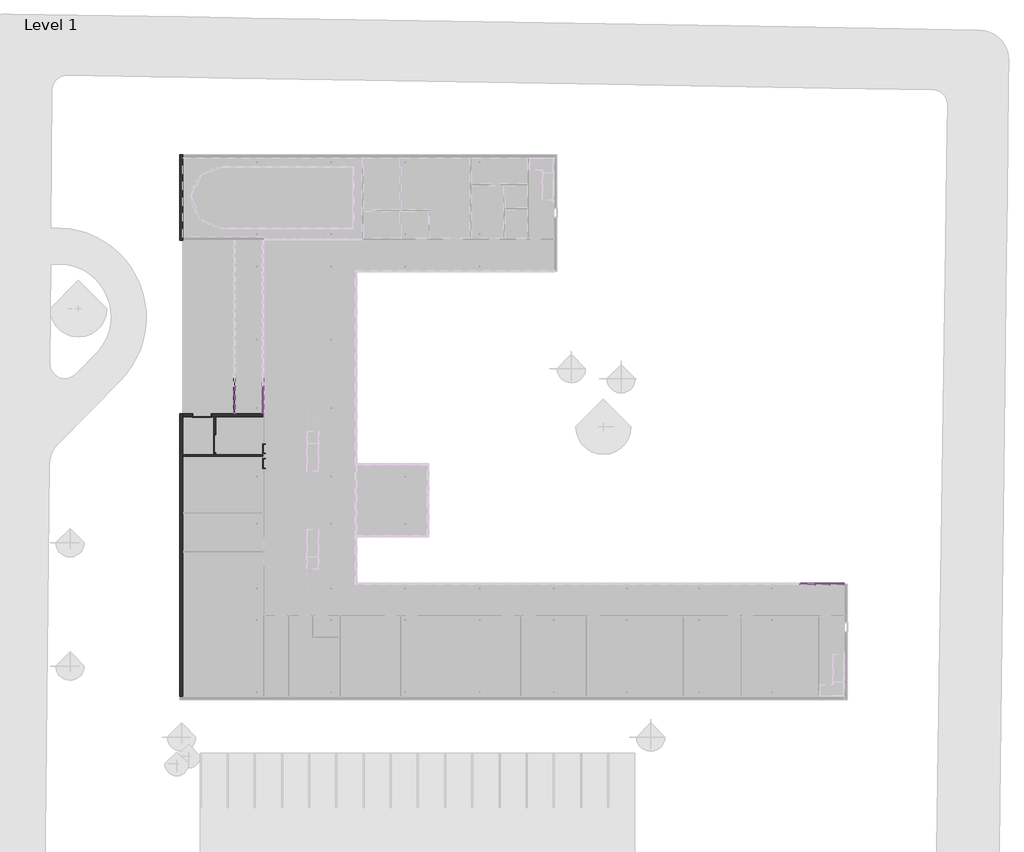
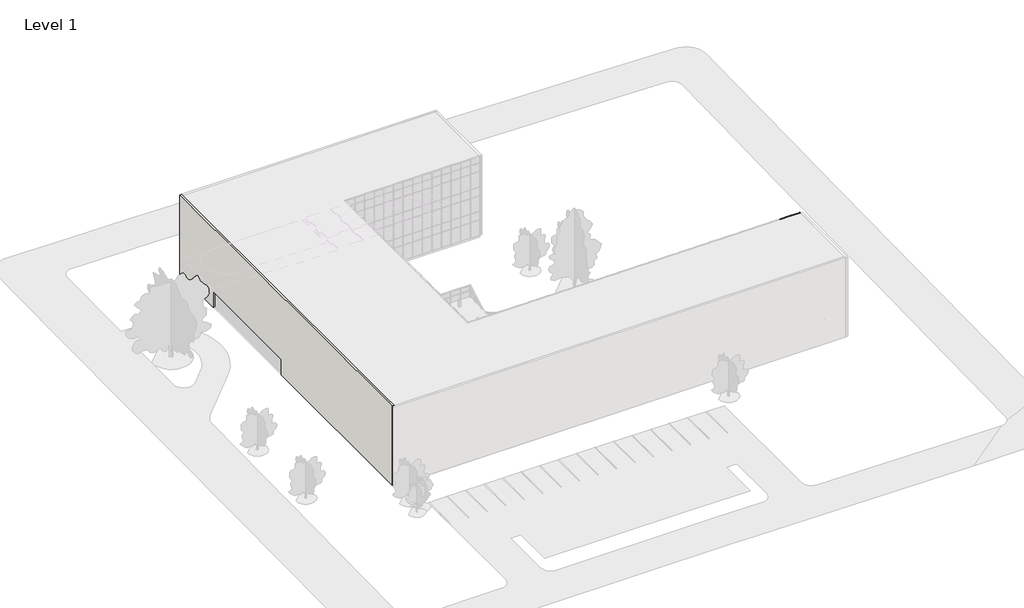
# One storey, part 9 of 27: 81 members, 28 plates, 4 doors, 4 walls.
"""IFC4 building model written with IfcOpenShell, lengths in millimetres."""

from ifc_helpers import new_model, si_unit, frame, origin, place, context, project, spatial, polyline, outline, extrude, faceted_brep, transform, mapped, element, save
from components import door_0915mm_x_2134mm_2aa27b83, door_0915mm_x_2134mm_3fa07aa3, door_2_x_0915mm_x_2134mm_c74f849d, door_2_x_0915mm_x_2134mm_afd50e46, rectangular_mullion_50mm_x_150mm_3fa3ad65, rectangular_mullion_50mm_x_150mm_d427b131, rectangular_mullion_50mm_x_150mm_d8a63713, rectangular_mullion_50mm_x_150mm_a28728bf, rectangular_mullion_50mm_x_150mm_a376ce0f, rectangular_mullion_50mm_x_150mm_4471a7bc, rectangular_mullion_50mm_x_150mm_22af440f, rectangular_mullion_50mm_x_150mm_0f59f38f, rectangular_mullion_50mm_x_150mm_0d1e5fd7, rectangular_mullion_50mm_x_150mm_5f185edf, rectangular_mullion_50mm_x_150mm_478b79f1, rectangular_mullion_50mm_x_150mm_e13fe9f0, rectangular_mullion_50mm_x_150mm_bbc1c4ea, rectangular_mullion_50mm_x_150mm_eeb88b28, rectangular_mullion_50mm_x_150mm_36202a7c, rectangular_mullion_50mm_x_150mm_84717ec5, rectangular_mullion_50mm_x_150mm_d94480a8, rectangular_mullion_50mm_x_150mm_5f630e3e, system_panel_glazed_aa3f7126, system_panel_glazed_37b7c907, system_panel_glazed_7c3f78ea, system_panel_glazed_1f05e993, system_panel_glazed_650e5b75, system_panel_glazed_65478968, system_panel_glazed_98ac4f7d, system_panel_glazed_4c130a31, system_panel_solid_0e2242f5, system_panel_solid_368a6b70, system_panel_solid_52262057, system_panel_solid_ece33ae8

model = new_model("IFC4")

# Units and contexts
model_context = context("Model", 3, world=origin())
ifc_project = project(units=[si_unit("LENGTHUNIT", "METRE", prefix="MILLI")], contexts=[model_context])

# Site, building, storey
site = spatial("IfcSite", under=ifc_project)
building = spatial("IfcBuilding", under=site)
storey = spatial("IfcBuildingStorey", under=building, Name="Level 1", Elevation=0.0)

# Doors
placement = place(None, origin())
door_0915mm_x_2134mm_shape = door_0915mm_x_2134mm_2aa27b83(model_context)
element("IfcDoor", 1, ObjectType="m-doors-hm-f1-a : 0915mm x 2134mm", at=placement, inside=storey, context=model_context, shape_type="MappedRepresentation", body=[
    mapped(door_0915mm_x_2134mm_shape, transform((-1995.8386635, 1518.5392059, 0.0), x_axis=(0.0, 1.0, 0.0), y_axis=(-1.0, 0.0, 0.0), z_axis=(0.0, 0.0, 1.0))),
])
door_0915mm_x_2134mm_2_shape = door_0915mm_x_2134mm_3fa07aa3(model_context)
element("IfcDoor", 2, ObjectType="m-doors-hm-f1-a : 0915mm x 2134mm", at=placement, inside=storey, context=model_context, shape_type="MappedRepresentation", body=[
    mapped(door_0915mm_x_2134mm_2_shape, transform((-1995.8386635, 18.5392059, 0.0), x_axis=(0.0, -1.0, 0.0), y_axis=(1.0, 0.0, 0.0), z_axis=(0.0, 0.0, 1.0))),
])
door_2_x_0915mm_x_2134mm_shape = door_2_x_0915mm_x_2134mm_c74f849d(model_context)
element("IfcDoor", 3, ObjectType="m-doors-hm-f2-a : 2 x 0915mm x 2134mm", at=placement, inside=storey, context=model_context, shape_type="MappedRepresentation", body=[
    mapped(door_2_x_0915mm_x_2134mm_shape, transform((-6944.8386635, 2018.5392059, 0.0), x_axis=(0.0, 1.0, 0.0), y_axis=(-1.0, 0.0, 0.0), z_axis=(0.0, 0.0, 1.0))),
])
door_2_x_0915mm_x_2134mm_2_shape = door_2_x_0915mm_x_2134mm_afd50e46(model_context)
element("IfcDoor", 4, ObjectType="m-doors-hm-f2-a : 2 x 0915mm x 2134mm", at=placement, inside=storey, context=model_context, shape_type="MappedRepresentation", body=[
    mapped(door_2_x_0915mm_x_2134mm_2_shape, transform((-8069.8386635, 4696.5799804, 0.0), x_axis=(-1.0, 0.0, 0.0), y_axis=(0.0, -1.0, 0.0), z_axis=(0.0, 0.0, 1.0))),
])

# Members
rectangular_mullion_50mm_x_150mm_shape = rectangular_mullion_50mm_x_150mm_3fa3ad65(model_context)
element("IfcMember", 5, ObjectType="Rectangular Mullion : 50mm x 150mm", at=placement, inside=storey, context=model_context, shape_type="MappedRepresentation", body=[
    mapped(rectangular_mullion_50mm_x_150mm_shape, transform((-1903.8386635, 5072.5799804, 3550.0), x_axis=(0.0, 0.0, 1.0), y_axis=(-1.0, 0.0, 0.0), z_axis=(0.0, -1.0, 0.0))),
])
element("IfcMember", 6, ObjectType="Rectangular Mullion : 50mm x 150mm", at=placement, inside=storey, context=model_context, shape_type="MappedRepresentation", body=[
    mapped(rectangular_mullion_50mm_x_150mm_shape, transform((-4803.8386635, 5072.5799804, 3550.0), x_axis=(0.0, 0.0, 1.0), y_axis=(-1.0, 0.0, 0.0), z_axis=(0.0, -1.0, 0.0))),
])
rectangular_mullion_50mm_x_150mm_2_shape = rectangular_mullion_50mm_x_150mm_d427b131(model_context)
element("IfcMember", 7, ObjectType="Rectangular Mullion : 50mm x 150mm", at=placement, inside=storey, context=model_context, shape_type="MappedRepresentation", body=[
    mapped(rectangular_mullion_50mm_x_150mm_2_shape, transform((-1903.8386635, 7810.4220859, 3550.0), x_axis=(0.0, 0.0, 1.0), y_axis=(-1.0, 0.0, 0.0), z_axis=(0.0, -1.0, 0.0))),
])
element("IfcMember", 8, ObjectType="Rectangular Mullion : 50mm x 150mm", at=placement, inside=storey, context=model_context, shape_type="MappedRepresentation", body=[
    mapped(rectangular_mullion_50mm_x_150mm_2_shape, transform((-1903.8386635, 6889.4747175, 3550.0), x_axis=(0.0, 0.0, 1.0), y_axis=(-1.0, 0.0, 0.0), z_axis=(0.0, -1.0, 0.0))),
])
element("IfcMember", 9, ObjectType="Rectangular Mullion : 50mm x 150mm", at=placement, inside=storey, context=model_context, shape_type="MappedRepresentation", body=[
    mapped(rectangular_mullion_50mm_x_150mm_2_shape, transform((-1903.8386635, 5968.5273491, 3550.0), x_axis=(0.0, 0.0, 1.0), y_axis=(-1.0, 0.0, 0.0), z_axis=(0.0, -1.0, 0.0))),
])
element("IfcMember", 10, ObjectType="Rectangular Mullion : 50mm x 150mm", at=placement, inside=storey, context=model_context, shape_type="MappedRepresentation", body=[
    mapped(rectangular_mullion_50mm_x_150mm_2_shape, transform((-4803.8386635, 8731.3694542, 3550.0), x_axis=(0.0, 0.0, 1.0), y_axis=(-1.0, 0.0, 0.0), z_axis=(0.0, -1.0, 0.0))),
])
element("IfcMember", 11, ObjectType="Rectangular Mullion : 50mm x 150mm", at=placement, inside=storey, context=model_context, shape_type="MappedRepresentation", body=[
    mapped(rectangular_mullion_50mm_x_150mm_2_shape, transform((-4803.8386635, 7810.4220859, 3550.0), x_axis=(0.0, 0.0, 1.0), y_axis=(-1.0, 0.0, 0.0), z_axis=(0.0, -1.0, 0.0))),
])
element("IfcMember", 12, ObjectType="Rectangular Mullion : 50mm x 150mm", at=placement, inside=storey, context=model_context, shape_type="MappedRepresentation", body=[
    mapped(rectangular_mullion_50mm_x_150mm_2_shape, transform((-4803.8386635, 6889.4747175, 3550.0), x_axis=(0.0, 0.0, 1.0), y_axis=(-1.0, 0.0, 0.0), z_axis=(0.0, -1.0, 0.0))),
])
element("IfcMember", 13, ObjectType="Rectangular Mullion : 50mm x 150mm", at=placement, inside=storey, context=model_context, shape_type="MappedRepresentation", body=[
    mapped(rectangular_mullion_50mm_x_150mm_2_shape, transform((-4803.8386635, 5968.5273491, 3550.0), x_axis=(0.0, 0.0, 1.0), y_axis=(-1.0, 0.0, 0.0), z_axis=(0.0, -1.0, 0.0))),
])
element("IfcMember", 14, ObjectType="Rectangular Mullion : 50mm x 150mm", at=placement, inside=storey, context=model_context, shape_type="MappedRepresentation", body=[
    mapped(rectangular_mullion_50mm_x_150mm_2_shape, transform((-1903.8386635, 7760.4220859, 0.0), x_axis=(0.0, 0.0, -1.0), y_axis=(-1.0, 0.0, 0.0), z_axis=(0.0, 1.0, 0.0))),
])
element("IfcMember", 15, ObjectType="Rectangular Mullion : 50mm x 150mm", at=placement, inside=storey, context=model_context, shape_type="MappedRepresentation", body=[
    mapped(rectangular_mullion_50mm_x_150mm_2_shape, transform((-1903.8386635, 6839.4747175, 0.0), x_axis=(0.0, 0.0, -1.0), y_axis=(-1.0, 0.0, 0.0), z_axis=(0.0, 1.0, 0.0))),
])
element("IfcMember", 16, ObjectType="Rectangular Mullion : 50mm x 150mm", at=placement, inside=storey, context=model_context, shape_type="MappedRepresentation", body=[
    mapped(rectangular_mullion_50mm_x_150mm_2_shape, transform((-4803.8386635, 8681.3694542, 0.0), x_axis=(0.0, 0.0, -1.0), y_axis=(-1.0, 0.0, 0.0), z_axis=(0.0, 1.0, 0.0))),
])
element("IfcMember", 17, ObjectType="Rectangular Mullion : 50mm x 150mm", at=placement, inside=storey, context=model_context, shape_type="MappedRepresentation", body=[
    mapped(rectangular_mullion_50mm_x_150mm_2_shape, transform((-4803.8386635, 7760.4220859, 0.0), x_axis=(0.0, 0.0, -1.0), y_axis=(-1.0, 0.0, 0.0), z_axis=(0.0, 1.0, 0.0))),
])
element("IfcMember", 18, ObjectType="Rectangular Mullion : 50mm x 150mm", at=placement, inside=storey, context=model_context, shape_type="MappedRepresentation", body=[
    mapped(rectangular_mullion_50mm_x_150mm_2_shape, transform((-4803.8386635, 6839.4747175, 0.0), x_axis=(0.0, 0.0, -1.0), y_axis=(-1.0, 0.0, 0.0), z_axis=(0.0, 1.0, 0.0))),
])
element("IfcMember", 19, ObjectType="Rectangular Mullion : 50mm x 150mm", at=placement, inside=storey, context=model_context, shape_type="MappedRepresentation", body=[
    mapped(rectangular_mullion_50mm_x_150mm_shape, transform((-1903.8386635, 5918.5273491, 0.0), x_axis=(0.0, 0.0, -1.0), y_axis=(-1.0, 0.0, 0.0), z_axis=(0.0, 1.0, 0.0))),
])
element("IfcMember", 20, ObjectType="Rectangular Mullion : 50mm x 150mm", at=placement, inside=storey, context=model_context, shape_type="MappedRepresentation", body=[
    mapped(rectangular_mullion_50mm_x_150mm_shape, transform((-4803.8386635, 5918.5273491, 0.0), x_axis=(0.0, 0.0, -1.0), y_axis=(-1.0, 0.0, 0.0), z_axis=(0.0, 1.0, 0.0))),
])
rectangular_mullion_50mm_x_150mm_3_shape = rectangular_mullion_50mm_x_150mm_d8a63713(model_context)
element("IfcMember", 21, ObjectType="Rectangular Mullion : 50mm x 150mm", at=placement, inside=storey, context=model_context, shape_type="MappedRepresentation", body=[
    mapped(rectangular_mullion_50mm_x_150mm_3_shape, transform((-1903.8386635, 7785.4220859, 0.0), x_axis=(0.0, -1.0, 0.0), y_axis=(-1.0, 0.0, 0.0), z_axis=(0.0, 0.0, -1.0))),
])
element("IfcMember", 22, ObjectType="Rectangular Mullion : 50mm x 150mm", at=placement, inside=storey, context=model_context, shape_type="MappedRepresentation", body=[
    mapped(rectangular_mullion_50mm_x_150mm_3_shape, transform((-1903.8386635, 6864.4747175, 0.0), x_axis=(0.0, -1.0, 0.0), y_axis=(-1.0, 0.0, 0.0), z_axis=(0.0, 0.0, -1.0))),
])
element("IfcMember", 23, ObjectType="Rectangular Mullion : 50mm x 150mm", at=placement, inside=storey, context=model_context, shape_type="MappedRepresentation", body=[
    mapped(rectangular_mullion_50mm_x_150mm_3_shape, transform((-1903.8386635, 5943.5273491, 0.0), x_axis=(0.0, -1.0, 0.0), y_axis=(-1.0, 0.0, 0.0), z_axis=(0.0, 0.0, -1.0))),
])
element("IfcMember", 24, ObjectType="Rectangular Mullion : 50mm x 150mm", at=placement, inside=storey, context=model_context, shape_type="MappedRepresentation", body=[
    mapped(rectangular_mullion_50mm_x_150mm_3_shape, transform((-4803.8386635, 7785.4220859, 0.0), x_axis=(0.0, -1.0, 0.0), y_axis=(-1.0, 0.0, 0.0), z_axis=(0.0, 0.0, -1.0))),
])
element("IfcMember", 25, ObjectType="Rectangular Mullion : 50mm x 150mm", at=placement, inside=storey, context=model_context, shape_type="MappedRepresentation", body=[
    mapped(rectangular_mullion_50mm_x_150mm_3_shape, transform((-4803.8386635, 6864.4747175, 0.0), x_axis=(0.0, -1.0, 0.0), y_axis=(-1.0, 0.0, 0.0), z_axis=(0.0, 0.0, -1.0))),
])
element("IfcMember", 26, ObjectType="Rectangular Mullion : 50mm x 150mm", at=placement, inside=storey, context=model_context, shape_type="MappedRepresentation", body=[
    mapped(rectangular_mullion_50mm_x_150mm_3_shape, transform((-4803.8386635, 5943.5273491, 0.0), x_axis=(0.0, -1.0, 0.0), y_axis=(-1.0, 0.0, 0.0), z_axis=(0.0, 0.0, -1.0))),
])
rectangular_mullion_50mm_x_150mm_4_shape = rectangular_mullion_50mm_x_150mm_a28728bf(model_context)
element("IfcMember", 27, ObjectType="Rectangular Mullion : 50mm x 150mm", at=placement, inside=storey, context=model_context, shape_type="MappedRepresentation", body=[
    mapped(rectangular_mullion_50mm_x_150mm_4_shape, transform((-1903.8386635, 7785.4220859, 2135.0), x_axis=(0.0, -1.0, 0.0), y_axis=(-1.0, 0.0, 0.0), z_axis=(0.0, 0.0, -1.0))),
])
element("IfcMember", 28, ObjectType="Rectangular Mullion : 50mm x 150mm", at=placement, inside=storey, context=model_context, shape_type="MappedRepresentation", body=[
    mapped(rectangular_mullion_50mm_x_150mm_4_shape, transform((-1903.8386635, 6864.4747175, 2135.0), x_axis=(0.0, -1.0, 0.0), y_axis=(-1.0, 0.0, 0.0), z_axis=(0.0, 0.0, -1.0))),
])
element("IfcMember", 29, ObjectType="Rectangular Mullion : 50mm x 150mm", at=placement, inside=storey, context=model_context, shape_type="MappedRepresentation", body=[
    mapped(rectangular_mullion_50mm_x_150mm_4_shape, transform((-1903.8386635, 5943.5273491, 2135.0), x_axis=(0.0, -1.0, 0.0), y_axis=(-1.0, 0.0, 0.0), z_axis=(0.0, 0.0, -1.0))),
])
element("IfcMember", 30, ObjectType="Rectangular Mullion : 50mm x 150mm", at=placement, inside=storey, context=model_context, shape_type="MappedRepresentation", body=[
    mapped(rectangular_mullion_50mm_x_150mm_4_shape, transform((-4803.8386635, 7785.4220859, 2135.0), x_axis=(0.0, -1.0, 0.0), y_axis=(-1.0, 0.0, 0.0), z_axis=(0.0, 0.0, -1.0))),
])
element("IfcMember", 31, ObjectType="Rectangular Mullion : 50mm x 150mm", at=placement, inside=storey, context=model_context, shape_type="MappedRepresentation", body=[
    mapped(rectangular_mullion_50mm_x_150mm_4_shape, transform((-4803.8386635, 6864.4747175, 2135.0), x_axis=(0.0, -1.0, 0.0), y_axis=(-1.0, 0.0, 0.0), z_axis=(0.0, 0.0, -1.0))),
])
element("IfcMember", 32, ObjectType="Rectangular Mullion : 50mm x 150mm", at=placement, inside=storey, context=model_context, shape_type="MappedRepresentation", body=[
    mapped(rectangular_mullion_50mm_x_150mm_4_shape, transform((-4803.8386635, 5943.5273491, 2135.0), x_axis=(0.0, -1.0, 0.0), y_axis=(-1.0, 0.0, 0.0), z_axis=(0.0, 0.0, -1.0))),
])
rectangular_mullion_50mm_x_150mm_5_shape = rectangular_mullion_50mm_x_150mm_a376ce0f(model_context)
element("IfcMember", 33, ObjectType="Rectangular Mullion : 50mm x 150mm", at=placement, inside=storey, context=model_context, shape_type="MappedRepresentation", body=[
    mapped(rectangular_mullion_50mm_x_150mm_5_shape, transform((-1903.8386635, 5072.5799804, 2135.0), x_axis=(0.0, 0.0, 1.0), y_axis=(-1.0, 0.0, 0.0), z_axis=(0.0, -1.0, 0.0))),
])
element("IfcMember", 34, ObjectType="Rectangular Mullion : 50mm x 150mm", at=placement, inside=storey, context=model_context, shape_type="MappedRepresentation", body=[
    mapped(rectangular_mullion_50mm_x_150mm_5_shape, transform((-4803.8386635, 5072.5799804, 2135.0), x_axis=(0.0, 0.0, 1.0), y_axis=(-1.0, 0.0, 0.0), z_axis=(0.0, -1.0, 0.0))),
])
rectangular_mullion_50mm_x_150mm_6_shape = rectangular_mullion_50mm_x_150mm_4471a7bc(model_context)
element("IfcMember", 35, ObjectType="Rectangular Mullion : 50mm x 150mm", at=placement, inside=storey, context=model_context, shape_type="MappedRepresentation", body=[
    mapped(rectangular_mullion_50mm_x_150mm_6_shape, transform((-1903.8386635, 7810.4220859, 2135.0), x_axis=(0.0, 0.0, 1.0), y_axis=(-1.0, 0.0, 0.0), z_axis=(0.0, -1.0, 0.0))),
])
element("IfcMember", 36, ObjectType="Rectangular Mullion : 50mm x 150mm", at=placement, inside=storey, context=model_context, shape_type="MappedRepresentation", body=[
    mapped(rectangular_mullion_50mm_x_150mm_6_shape, transform((-1903.8386635, 6889.4747175, 2135.0), x_axis=(0.0, 0.0, 1.0), y_axis=(-1.0, 0.0, 0.0), z_axis=(0.0, -1.0, 0.0))),
])
element("IfcMember", 37, ObjectType="Rectangular Mullion : 50mm x 150mm", at=placement, inside=storey, context=model_context, shape_type="MappedRepresentation", body=[
    mapped(rectangular_mullion_50mm_x_150mm_6_shape, transform((-1903.8386635, 5968.5273491, 2135.0), x_axis=(0.0, 0.0, 1.0), y_axis=(-1.0, 0.0, 0.0), z_axis=(0.0, -1.0, 0.0))),
])
element("IfcMember", 38, ObjectType="Rectangular Mullion : 50mm x 150mm", at=placement, inside=storey, context=model_context, shape_type="MappedRepresentation", body=[
    mapped(rectangular_mullion_50mm_x_150mm_6_shape, transform((-4803.8386635, 7810.4220859, 2135.0), x_axis=(0.0, 0.0, 1.0), y_axis=(-1.0, 0.0, 0.0), z_axis=(0.0, -1.0, 0.0))),
])
element("IfcMember", 39, ObjectType="Rectangular Mullion : 50mm x 150mm", at=placement, inside=storey, context=model_context, shape_type="MappedRepresentation", body=[
    mapped(rectangular_mullion_50mm_x_150mm_6_shape, transform((-4803.8386635, 6889.4747175, 2135.0), x_axis=(0.0, 0.0, 1.0), y_axis=(-1.0, 0.0, 0.0), z_axis=(0.0, -1.0, 0.0))),
])
element("IfcMember", 40, ObjectType="Rectangular Mullion : 50mm x 150mm", at=placement, inside=storey, context=model_context, shape_type="MappedRepresentation", body=[
    mapped(rectangular_mullion_50mm_x_150mm_6_shape, transform((-4803.8386635, 5968.5273491, 2135.0), x_axis=(0.0, 0.0, 1.0), y_axis=(-1.0, 0.0, 0.0), z_axis=(0.0, -1.0, 0.0))),
])
rectangular_mullion_50mm_x_150mm_7_shape = rectangular_mullion_50mm_x_150mm_22af440f(model_context)
element("IfcMember", 41, ObjectType="Rectangular Mullion : 50mm x 150mm", at=placement, inside=storey, context=model_context, shape_type="MappedRepresentation", body=[
    mapped(rectangular_mullion_50mm_x_150mm_7_shape, transform((-1903.8386635, 5022.5799804, 0.0), x_axis=(0.0, -1.0, 0.0), y_axis=(-1.0, 0.0, 0.0), z_axis=(0.0, 0.0, -1.0))),
])
element("IfcMember", 42, ObjectType="Rectangular Mullion : 50mm x 150mm", at=placement, inside=storey, context=model_context, shape_type="MappedRepresentation", body=[
    mapped(rectangular_mullion_50mm_x_150mm_7_shape, transform((-4803.8386635, 5022.5799804, 0.0), x_axis=(0.0, -1.0, 0.0), y_axis=(-1.0, 0.0, 0.0), z_axis=(0.0, 0.0, -1.0))),
])
rectangular_mullion_50mm_x_150mm_8_shape = rectangular_mullion_50mm_x_150mm_0f59f38f(model_context)
element("IfcMember", 43, ObjectType="Rectangular Mullion : 50mm x 150mm", at=placement, inside=storey, context=model_context, shape_type="MappedRepresentation", body=[
    mapped(rectangular_mullion_50mm_x_150mm_8_shape, transform((-1903.8386635, 5022.5799804, 2135.0), x_axis=(0.0, -1.0, 0.0), y_axis=(-1.0, 0.0, 0.0), z_axis=(0.0, 0.0, -1.0))),
])
element("IfcMember", 44, ObjectType="Rectangular Mullion : 50mm x 150mm", at=placement, inside=storey, context=model_context, shape_type="MappedRepresentation", body=[
    mapped(rectangular_mullion_50mm_x_150mm_8_shape, transform((-4803.8386635, 5022.5799804, 2135.0), x_axis=(0.0, -1.0, 0.0), y_axis=(-1.0, 0.0, 0.0), z_axis=(0.0, 0.0, -1.0))),
])
rectangular_mullion_50mm_x_150mm_9_shape = rectangular_mullion_50mm_x_150mm_0d1e5fd7(model_context)
element("IfcMember", 45, ObjectType="Rectangular Mullion : 50mm x 150mm", at=placement, inside=storey, context=model_context, shape_type="MappedRepresentation", body=[
    mapped(rectangular_mullion_50mm_x_150mm_9_shape, transform((55231.6441177, -12132.3615692, 12400.0), x_axis=(0.0, 0.0, 1.0), y_axis=(0.0, 1.0, 0.0), z_axis=(-1.0, 0.0, 0.0))),
])
element("IfcMember", 46, ObjectType="Rectangular Mullion : 50mm x 150mm", at=placement, inside=storey, context=model_context, shape_type="MappedRepresentation", body=[
    mapped(rectangular_mullion_50mm_x_150mm_9_shape, transform((56649.1173382, -12132.3615692, 0.0), x_axis=(0.0, 0.0, -1.0), y_axis=(0.0, 1.0, 0.0), z_axis=(1.0, 0.0, 0.0))),
])
rectangular_mullion_50mm_x_150mm_10_shape = rectangular_mullion_50mm_x_150mm_5f185edf(model_context)
element("IfcMember", 47, ObjectType="Rectangular Mullion : 50mm x 150mm", at=placement, inside=storey, context=model_context, shape_type="MappedRepresentation", body=[
    mapped(rectangular_mullion_50mm_x_150mm_10_shape, transform((53739.1708976, -12132.3615692, 12400.0), x_axis=(0.0, 0.0, 1.0), y_axis=(0.0, 1.0, 0.0), z_axis=(-1.0, 0.0, 0.0))),
])
element("IfcMember", 48, ObjectType="Rectangular Mullion : 50mm x 150mm", at=placement, inside=storey, context=model_context, shape_type="MappedRepresentation", body=[
    mapped(rectangular_mullion_50mm_x_150mm_10_shape, transform((55181.6441177, -12132.3615692, 0.0), x_axis=(0.0, 0.0, -1.0), y_axis=(0.0, 1.0, 0.0), z_axis=(1.0, 0.0, 0.0))),
])
element("IfcMember", 49, ObjectType="Rectangular Mullion : 50mm x 150mm", at=placement, inside=storey, context=model_context, shape_type="MappedRepresentation", body=[
    mapped(rectangular_mullion_50mm_x_150mm_10_shape, transform((53689.1708976, -12132.3615692, 0.0), x_axis=(0.0, 0.0, -1.0), y_axis=(0.0, 1.0, 0.0), z_axis=(1.0, 0.0, 0.0))),
])
rectangular_mullion_50mm_x_150mm_11_shape = rectangular_mullion_50mm_x_150mm_478b79f1(model_context)
element("IfcMember", 50, ObjectType="Rectangular Mullion : 50mm x 150mm", at=placement, inside=storey, context=model_context, shape_type="MappedRepresentation", body=[
    mapped(rectangular_mullion_50mm_x_150mm_11_shape, transform((55231.6441177, -12132.3615692, 3800.0), x_axis=(0.0, 0.0, 1.0), y_axis=(0.0, 1.0, 0.0), z_axis=(-1.0, 0.0, 0.0))),
])
element("IfcMember", 51, ObjectType="Rectangular Mullion : 50mm x 150mm", at=placement, inside=storey, context=model_context, shape_type="MappedRepresentation", body=[
    mapped(rectangular_mullion_50mm_x_150mm_11_shape, transform((55231.6441177, -12132.3615692, 7600.0), x_axis=(0.0, 0.0, 1.0), y_axis=(0.0, 1.0, 0.0), z_axis=(-1.0, 0.0, 0.0))),
])
element("IfcMember", 52, ObjectType="Rectangular Mullion : 50mm x 150mm", at=placement, inside=storey, context=model_context, shape_type="MappedRepresentation", body=[
    mapped(rectangular_mullion_50mm_x_150mm_11_shape, transform((55231.6441177, -12132.3615692, 11400.0), x_axis=(0.0, 0.0, 1.0), y_axis=(0.0, 1.0, 0.0), z_axis=(-1.0, 0.0, 0.0))),
])
element("IfcMember", 53, ObjectType="Rectangular Mullion : 50mm x 150mm", at=placement, inside=storey, context=model_context, shape_type="MappedRepresentation", body=[
    mapped(rectangular_mullion_50mm_x_150mm_11_shape, transform((55231.6441177, -12132.3615692, 2440.0), x_axis=(0.0, 0.0, 1.0), y_axis=(0.0, 1.0, 0.0), z_axis=(-1.0, 0.0, 0.0))),
])
element("IfcMember", 54, ObjectType="Rectangular Mullion : 50mm x 150mm", at=placement, inside=storey, context=model_context, shape_type="MappedRepresentation", body=[
    mapped(rectangular_mullion_50mm_x_150mm_11_shape, transform((55231.6441177, -12132.3615692, 6240.0), x_axis=(0.0, 0.0, 1.0), y_axis=(0.0, 1.0, 0.0), z_axis=(-1.0, 0.0, 0.0))),
])
element("IfcMember", 55, ObjectType="Rectangular Mullion : 50mm x 150mm", at=placement, inside=storey, context=model_context, shape_type="MappedRepresentation", body=[
    mapped(rectangular_mullion_50mm_x_150mm_11_shape, transform((55231.6441177, -12132.3615692, 10040.0), x_axis=(0.0, 0.0, 1.0), y_axis=(0.0, 1.0, 0.0), z_axis=(-1.0, 0.0, 0.0))),
])
rectangular_mullion_50mm_x_150mm_12_shape = rectangular_mullion_50mm_x_150mm_e13fe9f0(model_context)
element("IfcMember", 56, ObjectType="Rectangular Mullion : 50mm x 150mm", at=placement, inside=storey, context=model_context, shape_type="MappedRepresentation", body=[
    mapped(rectangular_mullion_50mm_x_150mm_12_shape, transform((53739.1708976, -12132.3615692, 3800.0), x_axis=(0.0, 0.0, 1.0), y_axis=(0.0, 1.0, 0.0), z_axis=(-1.0, 0.0, 0.0))),
])
element("IfcMember", 57, ObjectType="Rectangular Mullion : 50mm x 150mm", at=placement, inside=storey, context=model_context, shape_type="MappedRepresentation", body=[
    mapped(rectangular_mullion_50mm_x_150mm_12_shape, transform((53739.1708976, -12132.3615692, 7600.0), x_axis=(0.0, 0.0, 1.0), y_axis=(0.0, 1.0, 0.0), z_axis=(-1.0, 0.0, 0.0))),
])
element("IfcMember", 58, ObjectType="Rectangular Mullion : 50mm x 150mm", at=placement, inside=storey, context=model_context, shape_type="MappedRepresentation", body=[
    mapped(rectangular_mullion_50mm_x_150mm_12_shape, transform((53739.1708976, -12132.3615692, 11400.0), x_axis=(0.0, 0.0, 1.0), y_axis=(0.0, 1.0, 0.0), z_axis=(-1.0, 0.0, 0.0))),
])
element("IfcMember", 59, ObjectType="Rectangular Mullion : 50mm x 150mm", at=placement, inside=storey, context=model_context, shape_type="MappedRepresentation", body=[
    mapped(rectangular_mullion_50mm_x_150mm_12_shape, transform((53739.1708976, -12132.3615692, 2440.0), x_axis=(0.0, 0.0, 1.0), y_axis=(0.0, 1.0, 0.0), z_axis=(-1.0, 0.0, 0.0))),
])
element("IfcMember", 60, ObjectType="Rectangular Mullion : 50mm x 150mm", at=placement, inside=storey, context=model_context, shape_type="MappedRepresentation", body=[
    mapped(rectangular_mullion_50mm_x_150mm_12_shape, transform((53739.1708976, -12132.3615692, 6240.0), x_axis=(0.0, 0.0, 1.0), y_axis=(0.0, 1.0, 0.0), z_axis=(-1.0, 0.0, 0.0))),
])
element("IfcMember", 61, ObjectType="Rectangular Mullion : 50mm x 150mm", at=placement, inside=storey, context=model_context, shape_type="MappedRepresentation", body=[
    mapped(rectangular_mullion_50mm_x_150mm_12_shape, transform((53739.1708976, -12132.3615692, 10040.0), x_axis=(0.0, 0.0, 1.0), y_axis=(0.0, 1.0, 0.0), z_axis=(-1.0, 0.0, 0.0))),
])
element("IfcMember", 62, ObjectType="Rectangular Mullion : 50mm x 150mm", at=placement, inside=storey, context=model_context, shape_type="MappedRepresentation", body=[
    mapped(rectangular_mullion_50mm_x_150mm_12_shape, transform((52246.6976774, -12132.3615692, 10040.0), x_axis=(0.0, 0.0, 1.0), y_axis=(0.0, 1.0, 0.0), z_axis=(-1.0, 0.0, 0.0))),
])
rectangular_mullion_50mm_x_150mm_13_shape = rectangular_mullion_50mm_x_150mm_bbc1c4ea(model_context)
element("IfcMember", 63, ObjectType="Rectangular Mullion : 50mm x 150mm", at=placement, inside=storey, context=model_context, shape_type="MappedRepresentation", body=[
    mapped(rectangular_mullion_50mm_x_150mm_13_shape, transform((55206.6441177, -12132.3615692, 11400.0), x_axis=(-1.0, 0.0, 0.0), y_axis=(0.0, 1.0, 0.0), z_axis=(0.0, 0.0, -1.0))),
])
element("IfcMember", 64, ObjectType="Rectangular Mullion : 50mm x 150mm", at=placement, inside=storey, context=model_context, shape_type="MappedRepresentation", body=[
    mapped(rectangular_mullion_50mm_x_150mm_13_shape, transform((53714.1708976, -12132.3615692, 11400.0), x_axis=(-1.0, 0.0, 0.0), y_axis=(0.0, 1.0, 0.0), z_axis=(0.0, 0.0, -1.0))),
])
rectangular_mullion_50mm_x_150mm_14_shape = rectangular_mullion_50mm_x_150mm_eeb88b28(model_context)
element("IfcMember", 65, ObjectType="Rectangular Mullion : 50mm x 150mm", at=placement, inside=storey, context=model_context, shape_type="MappedRepresentation", body=[
    mapped(rectangular_mullion_50mm_x_150mm_14_shape, transform((56699.1173382, -12132.3615692, 12400.0), x_axis=(1.0, 0.0, 0.0), y_axis=(0.0, 1.0, 0.0), z_axis=(0.0, 0.0, 1.0))),
])
rectangular_mullion_50mm_x_150mm_15_shape = rectangular_mullion_50mm_x_150mm_36202a7c(model_context)
element("IfcMember", 66, ObjectType="Rectangular Mullion : 50mm x 150mm", at=placement, inside=storey, context=model_context, shape_type="MappedRepresentation", body=[
    mapped(rectangular_mullion_50mm_x_150mm_15_shape, transform((55206.6441177, -12132.3615692, 0.0), x_axis=(-1.0, 0.0, 0.0), y_axis=(0.0, 1.0, 0.0), z_axis=(0.0, 0.0, -1.0))),
])
element("IfcMember", 67, ObjectType="Rectangular Mullion : 50mm x 150mm", at=placement, inside=storey, context=model_context, shape_type="MappedRepresentation", body=[
    mapped(rectangular_mullion_50mm_x_150mm_15_shape, transform((53714.1708976, -12132.3615692, 0.0), x_axis=(-1.0, 0.0, 0.0), y_axis=(0.0, 1.0, 0.0), z_axis=(0.0, 0.0, -1.0))),
])
rectangular_mullion_50mm_x_150mm_16_shape = rectangular_mullion_50mm_x_150mm_84717ec5(model_context)
element("IfcMember", 68, ObjectType="Rectangular Mullion : 50mm x 150mm", at=placement, inside=storey, context=model_context, shape_type="MappedRepresentation", body=[
    mapped(rectangular_mullion_50mm_x_150mm_16_shape, transform((55206.6441177, -12132.3615692, 2440.0), x_axis=(-1.0, 0.0, 0.0), y_axis=(0.0, 1.0, 0.0), z_axis=(0.0, 0.0, -1.0))),
])
element("IfcMember", 69, ObjectType="Rectangular Mullion : 50mm x 150mm", at=placement, inside=storey, context=model_context, shape_type="MappedRepresentation", body=[
    mapped(rectangular_mullion_50mm_x_150mm_16_shape, transform((53714.1708976, -12132.3615692, 2440.0), x_axis=(-1.0, 0.0, 0.0), y_axis=(0.0, 1.0, 0.0), z_axis=(0.0, 0.0, -1.0))),
])
element("IfcMember", 70, ObjectType="Rectangular Mullion : 50mm x 150mm", at=placement, inside=storey, context=model_context, shape_type="MappedRepresentation", body=[
    mapped(rectangular_mullion_50mm_x_150mm_16_shape, transform((55206.6441177, -12132.3615692, 6240.0), x_axis=(-1.0, 0.0, 0.0), y_axis=(0.0, 1.0, 0.0), z_axis=(0.0, 0.0, -1.0))),
])
element("IfcMember", 71, ObjectType="Rectangular Mullion : 50mm x 150mm", at=placement, inside=storey, context=model_context, shape_type="MappedRepresentation", body=[
    mapped(rectangular_mullion_50mm_x_150mm_16_shape, transform((53714.1708976, -12132.3615692, 6240.0), x_axis=(-1.0, 0.0, 0.0), y_axis=(0.0, 1.0, 0.0), z_axis=(0.0, 0.0, -1.0))),
])
element("IfcMember", 72, ObjectType="Rectangular Mullion : 50mm x 150mm", at=placement, inside=storey, context=model_context, shape_type="MappedRepresentation", body=[
    mapped(rectangular_mullion_50mm_x_150mm_16_shape, transform((52221.6976774, -12132.3615692, 6240.0), x_axis=(-1.0, 0.0, 0.0), y_axis=(0.0, 1.0, 0.0), z_axis=(0.0, 0.0, -1.0))),
])
element("IfcMember", 73, ObjectType="Rectangular Mullion : 50mm x 150mm", at=placement, inside=storey, context=model_context, shape_type="MappedRepresentation", body=[
    mapped(rectangular_mullion_50mm_x_150mm_16_shape, transform((55206.6441177, -12132.3615692, 10040.0), x_axis=(-1.0, 0.0, 0.0), y_axis=(0.0, 1.0, 0.0), z_axis=(0.0, 0.0, -1.0))),
])
element("IfcMember", 74, ObjectType="Rectangular Mullion : 50mm x 150mm", at=placement, inside=storey, context=model_context, shape_type="MappedRepresentation", body=[
    mapped(rectangular_mullion_50mm_x_150mm_16_shape, transform((53714.1708976, -12132.3615692, 10040.0), x_axis=(-1.0, 0.0, 0.0), y_axis=(0.0, 1.0, 0.0), z_axis=(0.0, 0.0, -1.0))),
])
element("IfcMember", 75, ObjectType="Rectangular Mullion : 50mm x 150mm", at=placement, inside=storey, context=model_context, shape_type="MappedRepresentation", body=[
    mapped(rectangular_mullion_50mm_x_150mm_16_shape, transform((52221.6976774, -12132.3615692, 10040.0), x_axis=(-1.0, 0.0, 0.0), y_axis=(0.0, 1.0, 0.0), z_axis=(0.0, 0.0, -1.0))),
])
rectangular_mullion_50mm_x_150mm_17_shape = rectangular_mullion_50mm_x_150mm_d94480a8(model_context)
element("IfcMember", 76, ObjectType="Rectangular Mullion : 50mm x 150mm", at=placement, inside=storey, context=model_context, shape_type="MappedRepresentation", body=[
    mapped(rectangular_mullion_50mm_x_150mm_17_shape, transform((56699.1173382, -12132.3615692, 3800.0), x_axis=(1.0, 0.0, 0.0), y_axis=(0.0, 1.0, 0.0), z_axis=(0.0, 0.0, 1.0))),
])
element("IfcMember", 77, ObjectType="Rectangular Mullion : 50mm x 150mm", at=placement, inside=storey, context=model_context, shape_type="MappedRepresentation", body=[
    mapped(rectangular_mullion_50mm_x_150mm_17_shape, transform((56699.1173382, -12132.3615692, 7600.0), x_axis=(1.0, 0.0, 0.0), y_axis=(0.0, 1.0, 0.0), z_axis=(0.0, 0.0, 1.0))),
])
element("IfcMember", 78, ObjectType="Rectangular Mullion : 50mm x 150mm", at=placement, inside=storey, context=model_context, shape_type="MappedRepresentation", body=[
    mapped(rectangular_mullion_50mm_x_150mm_17_shape, transform((56699.1173382, -12132.3615692, 11400.0), x_axis=(1.0, 0.0, 0.0), y_axis=(0.0, 1.0, 0.0), z_axis=(0.0, 0.0, 1.0))),
])
rectangular_mullion_50mm_x_150mm_18_shape = rectangular_mullion_50mm_x_150mm_5f630e3e(model_context)
element("IfcMember", 79, ObjectType="Rectangular Mullion : 50mm x 150mm", at=placement, inside=storey, context=model_context, shape_type="MappedRepresentation", body=[
    mapped(rectangular_mullion_50mm_x_150mm_18_shape, transform((56699.1173382, -12132.3615692, 2440.0), x_axis=(1.0, 0.0, 0.0), y_axis=(0.0, 1.0, 0.0), z_axis=(0.0, 0.0, 1.0))),
])
element("IfcMember", 80, ObjectType="Rectangular Mullion : 50mm x 150mm", at=placement, inside=storey, context=model_context, shape_type="MappedRepresentation", body=[
    mapped(rectangular_mullion_50mm_x_150mm_15_shape, transform((55206.6441177, -12132.3615692, 3800.0), x_axis=(-1.0, 0.0, 0.0), y_axis=(0.0, 1.0, 0.0), z_axis=(0.0, 0.0, -1.0))),
])
element("IfcMember", 81, ObjectType="Rectangular Mullion : 50mm x 150mm", at=placement, inside=storey, context=model_context, shape_type="MappedRepresentation", body=[
    mapped(rectangular_mullion_50mm_x_150mm_15_shape, transform((53714.1708976, -12132.3615692, 3800.0), x_axis=(-1.0, 0.0, 0.0), y_axis=(0.0, 1.0, 0.0), z_axis=(0.0, 0.0, -1.0))),
])
element("IfcMember", 82, ObjectType="Rectangular Mullion : 50mm x 150mm", at=placement, inside=storey, context=model_context, shape_type="MappedRepresentation", body=[
    mapped(rectangular_mullion_50mm_x_150mm_15_shape, transform((55206.6441177, -12132.3615692, 7600.0), x_axis=(-1.0, 0.0, 0.0), y_axis=(0.0, 1.0, 0.0), z_axis=(0.0, 0.0, -1.0))),
])
element("IfcMember", 83, ObjectType="Rectangular Mullion : 50mm x 150mm", at=placement, inside=storey, context=model_context, shape_type="MappedRepresentation", body=[
    mapped(rectangular_mullion_50mm_x_150mm_15_shape, transform((53714.1708976, -12132.3615692, 7600.0), x_axis=(-1.0, 0.0, 0.0), y_axis=(0.0, 1.0, 0.0), z_axis=(0.0, 0.0, -1.0))),
])
element("IfcMember", 84, ObjectType="Rectangular Mullion : 50mm x 150mm", at=placement, inside=storey, context=model_context, shape_type="MappedRepresentation", body=[
    mapped(rectangular_mullion_50mm_x_150mm_18_shape, transform((56699.1173382, -12132.3615692, 6240.0), x_axis=(1.0, 0.0, 0.0), y_axis=(0.0, 1.0, 0.0), z_axis=(0.0, 0.0, 1.0))),
])
element("IfcMember", 85, ObjectType="Rectangular Mullion : 50mm x 150mm", at=placement, inside=storey, context=model_context, shape_type="MappedRepresentation", body=[
    mapped(rectangular_mullion_50mm_x_150mm_18_shape, transform((56699.1173382, -12132.3615692, 10040.0), x_axis=(1.0, 0.0, 0.0), y_axis=(0.0, 1.0, 0.0), z_axis=(0.0, 0.0, 1.0))),
])

# Plates
system_panel_glazed_shape = system_panel_glazed_aa3f7126(model_context)
element("IfcPlate", 86, ObjectType="System Panel : Glazed", at=placement, inside=storey, context=model_context, shape_type="MappedRepresentation", body=[
    mapped(system_panel_glazed_shape, transform((-1903.8386635, 5495.5536647, 50.0), x_axis=(0.0, -1.0, 0.0), y_axis=(1.0, 0.0, 0.0), z_axis=(0.0, 0.0, 1.0))),
])
element("IfcPlate", 87, ObjectType="System Panel : Glazed", at=placement, inside=storey, context=model_context, shape_type="MappedRepresentation", body=[
    mapped(system_panel_glazed_shape, transform((-4803.8386635, 5495.5536647, 50.0), x_axis=(0.0, -1.0, 0.0), y_axis=(1.0, 0.0, 0.0), z_axis=(0.0, 0.0, 1.0))),
])
system_panel_glazed_2_shape = system_panel_glazed_37b7c907(model_context)
element("IfcPlate", 88, ObjectType="System Panel : Glazed", at=placement, inside=storey, context=model_context, shape_type="MappedRepresentation", body=[
    mapped(system_panel_glazed_2_shape, transform((-1903.8386635, 7324.9484017, 50.0), x_axis=(0.0, -1.0, 0.0), y_axis=(1.0, 0.0, 0.0), z_axis=(0.0, 0.0, 1.0))),
])
element("IfcPlate", 89, ObjectType="System Panel : Glazed", at=placement, inside=storey, context=model_context, shape_type="MappedRepresentation", body=[
    mapped(system_panel_glazed_2_shape, transform((-1903.8386635, 6404.0010333, 50.0), x_axis=(0.0, -1.0, 0.0), y_axis=(1.0, 0.0, 0.0), z_axis=(0.0, 0.0, 1.0))),
])
element("IfcPlate", 90, ObjectType="System Panel : Glazed", at=placement, inside=storey, context=model_context, shape_type="MappedRepresentation", body=[
    mapped(system_panel_glazed_2_shape, transform((-4803.8386635, 8245.8957701, 50.0), x_axis=(0.0, -1.0, 0.0), y_axis=(1.0, 0.0, 0.0), z_axis=(0.0, 0.0, 1.0))),
])
element("IfcPlate", 91, ObjectType="System Panel : Glazed", at=placement, inside=storey, context=model_context, shape_type="MappedRepresentation", body=[
    mapped(system_panel_glazed_2_shape, transform((-4803.8386635, 7324.9484017, 50.0), x_axis=(0.0, -1.0, 0.0), y_axis=(1.0, 0.0, 0.0), z_axis=(0.0, 0.0, 1.0))),
])
element("IfcPlate", 92, ObjectType="System Panel : Glazed", at=placement, inside=storey, context=model_context, shape_type="MappedRepresentation", body=[
    mapped(system_panel_glazed_2_shape, transform((-4803.8386635, 6404.0010333, 50.0), x_axis=(0.0, -1.0, 0.0), y_axis=(1.0, 0.0, 0.0), z_axis=(0.0, 0.0, 1.0))),
])
system_panel_glazed_3_shape = system_panel_glazed_7c3f78ea(model_context)
element("IfcPlate", 93, ObjectType="System Panel : Glazed", at=placement, inside=storey, context=model_context, shape_type="MappedRepresentation", body=[
    mapped(system_panel_glazed_3_shape, transform((-1903.8386635, 5495.5536647, 2160.0), x_axis=(0.0, -1.0, 0.0), y_axis=(1.0, 0.0, 0.0), z_axis=(0.0, 0.0, 1.0))),
])
element("IfcPlate", 94, ObjectType="System Panel : Glazed", at=placement, inside=storey, context=model_context, shape_type="MappedRepresentation", body=[
    mapped(system_panel_glazed_3_shape, transform((-4803.8386635, 5495.5536647, 2160.0), x_axis=(0.0, -1.0, 0.0), y_axis=(1.0, 0.0, 0.0), z_axis=(0.0, 0.0, 1.0))),
])
system_panel_glazed_4_shape = system_panel_glazed_1f05e993(model_context)
element("IfcPlate", 95, ObjectType="System Panel : Glazed", at=placement, inside=storey, context=model_context, shape_type="MappedRepresentation", body=[
    mapped(system_panel_glazed_4_shape, transform((-1903.8386635, 7324.9484017, 2160.0), x_axis=(0.0, -1.0, 0.0), y_axis=(1.0, 0.0, 0.0), z_axis=(0.0, 0.0, 1.0))),
])
element("IfcPlate", 96, ObjectType="System Panel : Glazed", at=placement, inside=storey, context=model_context, shape_type="MappedRepresentation", body=[
    mapped(system_panel_glazed_4_shape, transform((-1903.8386635, 6404.0010333, 2160.0), x_axis=(0.0, -1.0, 0.0), y_axis=(1.0, 0.0, 0.0), z_axis=(0.0, 0.0, 1.0))),
])
element("IfcPlate", 97, ObjectType="System Panel : Glazed", at=placement, inside=storey, context=model_context, shape_type="MappedRepresentation", body=[
    mapped(system_panel_glazed_4_shape, transform((-4803.8386635, 7324.9484017, 2160.0), x_axis=(0.0, -1.0, 0.0), y_axis=(1.0, 0.0, 0.0), z_axis=(0.0, 0.0, 1.0))),
])
element("IfcPlate", 98, ObjectType="System Panel : Glazed", at=placement, inside=storey, context=model_context, shape_type="MappedRepresentation", body=[
    mapped(system_panel_glazed_4_shape, transform((-4803.8386635, 6404.0010333, 2160.0), x_axis=(0.0, -1.0, 0.0), y_axis=(1.0, 0.0, 0.0), z_axis=(0.0, 0.0, 1.0))),
])
system_panel_glazed_5_shape = system_panel_glazed_650e5b75(model_context)
element("IfcPlate", 99, ObjectType="System Panel : Glazed", at=placement, inside=storey, context=model_context, shape_type="MappedRepresentation", body=[
    mapped(system_panel_glazed_5_shape, transform((55940.380728, -12132.3615692, 50.0), x_axis=(-1.0, 0.0, 0.0), y_axis=(0.0, -1.0, 0.0), z_axis=(0.0, 0.0, 1.0))),
])
system_panel_glazed_6_shape = system_panel_glazed_65478968(model_context)
element("IfcPlate", 100, ObjectType="System Panel : Glazed", at=placement, inside=storey, context=model_context, shape_type="MappedRepresentation", body=[
    mapped(system_panel_glazed_6_shape, transform((54460.4075077, -12132.3615692, 50.0), x_axis=(-1.0, 0.0, 0.0), y_axis=(0.0, -1.0, 0.0), z_axis=(0.0, 0.0, 1.0))),
])
system_panel_glazed_7_shape = system_panel_glazed_98ac4f7d(model_context)
element("IfcPlate", 101, ObjectType="System Panel : Glazed", at=placement, inside=storey, context=model_context, shape_type="MappedRepresentation", body=[
    mapped(system_panel_glazed_7_shape, transform((55940.380728, -12132.3615692, 3825.0), x_axis=(-1.0, 0.0, 0.0), y_axis=(0.0, -1.0, 0.0), z_axis=(0.0, 0.0, 1.0))),
])
element("IfcPlate", 102, ObjectType="System Panel : Glazed", at=placement, inside=storey, context=model_context, shape_type="MappedRepresentation", body=[
    mapped(system_panel_glazed_7_shape, transform((55940.380728, -12132.3615692, 7625.0), x_axis=(-1.0, 0.0, 0.0), y_axis=(0.0, -1.0, 0.0), z_axis=(0.0, 0.0, 1.0))),
])
system_panel_glazed_8_shape = system_panel_glazed_4c130a31(model_context)
element("IfcPlate", 103, ObjectType="System Panel : Glazed", at=placement, inside=storey, context=model_context, shape_type="MappedRepresentation", body=[
    mapped(system_panel_glazed_8_shape, transform((54460.4075077, -12132.3615692, 3825.0), x_axis=(-1.0, 0.0, 0.0), y_axis=(0.0, -1.0, 0.0), z_axis=(0.0, 0.0, 1.0))),
])
element("IfcPlate", 104, ObjectType="System Panel : Glazed", at=placement, inside=storey, context=model_context, shape_type="MappedRepresentation", body=[
    mapped(system_panel_glazed_8_shape, transform((54460.4075077, -12132.3615692, 7625.0), x_axis=(-1.0, 0.0, 0.0), y_axis=(0.0, -1.0, 0.0), z_axis=(0.0, 0.0, 1.0))),
])
system_panel_solid_shape = system_panel_solid_0e2242f5(model_context)
element("IfcPlate", 105, ObjectType="System Panel : Solid", at=placement, inside=storey, context=model_context, shape_type="MappedRepresentation", body=[
    mapped(system_panel_solid_shape, transform((55940.380728, -12132.3615692, 11425.0), x_axis=(-1.0, 0.0, 0.0), y_axis=(0.0, -1.0, 0.0), z_axis=(0.0, 0.0, 1.0))),
])
system_panel_solid_2_shape = system_panel_solid_368a6b70(model_context)
element("IfcPlate", 106, ObjectType="System Panel : Solid", at=placement, inside=storey, context=model_context, shape_type="MappedRepresentation", body=[
    mapped(system_panel_solid_2_shape, transform((54460.4075077, -12132.3615692, 11425.0), x_axis=(-1.0, 0.0, 0.0), y_axis=(0.0, -1.0, 0.0), z_axis=(0.0, 0.0, 1.0))),
])
system_panel_solid_3_shape = system_panel_solid_52262057(model_context)
element("IfcPlate", 107, ObjectType="System Panel : Solid", at=placement, inside=storey, context=model_context, shape_type="MappedRepresentation", body=[
    mapped(system_panel_solid_3_shape, transform((55940.380728, -12132.3615692, 2465.0), x_axis=(-1.0, 0.0, 0.0), y_axis=(0.0, -1.0, 0.0), z_axis=(0.0, 0.0, 1.0))),
])
element("IfcPlate", 108, ObjectType="System Panel : Solid", at=placement, inside=storey, context=model_context, shape_type="MappedRepresentation", body=[
    mapped(system_panel_solid_3_shape, transform((55940.380728, -12132.3615692, 6265.0), x_axis=(-1.0, 0.0, 0.0), y_axis=(0.0, -1.0, 0.0), z_axis=(0.0, 0.0, 1.0))),
])
element("IfcPlate", 109, ObjectType="System Panel : Solid", at=placement, inside=storey, context=model_context, shape_type="MappedRepresentation", body=[
    mapped(system_panel_solid_3_shape, transform((55940.380728, -12132.3615692, 10065.0), x_axis=(-1.0, 0.0, 0.0), y_axis=(0.0, -1.0, 0.0), z_axis=(0.0, 0.0, 1.0))),
])
system_panel_solid_4_shape = system_panel_solid_ece33ae8(model_context)
element("IfcPlate", 110, ObjectType="System Panel : Solid", at=placement, inside=storey, context=model_context, shape_type="MappedRepresentation", body=[
    mapped(system_panel_solid_4_shape, transform((54460.4075077, -12132.3615692, 2465.0), x_axis=(-1.0, 0.0, 0.0), y_axis=(0.0, -1.0, 0.0), z_axis=(0.0, 0.0, 1.0))),
])
element("IfcPlate", 111, ObjectType="System Panel : Solid", at=placement, inside=storey, context=model_context, shape_type="MappedRepresentation", body=[
    mapped(system_panel_solid_4_shape, transform((54460.4075077, -12132.3615692, 6265.0), x_axis=(-1.0, 0.0, 0.0), y_axis=(0.0, -1.0, 0.0), z_axis=(0.0, 0.0, 1.0))),
])
element("IfcPlate", 112, ObjectType="System Panel : Solid", at=placement, inside=storey, context=model_context, shape_type="MappedRepresentation", body=[
    mapped(system_panel_solid_4_shape, transform((54460.4075077, -12132.3615692, 10065.0), x_axis=(-1.0, 0.0, 0.0), y_axis=(0.0, -1.0, 0.0), z_axis=(0.0, 0.0, 1.0))),
])
element("IfcPlate", 113, ObjectType="System Panel : Solid", at=placement, inside=storey, context=model_context, shape_type="MappedRepresentation", body=[
    mapped(system_panel_solid_4_shape, transform((52967.9342875, -12132.3615692, 10065.0), x_axis=(-1.0, 0.0, 0.0), y_axis=(0.0, -1.0, 0.0), z_axis=(0.0, 0.0, 1.0))),
])

# Walls
element("IfcWall", 114, ObjectType="P6 184mm - 1HR - ULC #W453", at=placement, inside=storey, context=model_context, shape_type="Brep", body=[
    faceted_brep([(-10026.8386635, 726.5392059, 0.0), (-1912.8386635, 726.5392059, 0.0), (-1912.8386635, 726.5392059, 3550.0), (-10026.8386635, 726.5392059, 3550.0), (-10026.8386635, 910.5392059, 0.0), (-10026.8386635, 910.5392059, 3550.0), (-6861.8386635, 910.5392059, 3550.0), (-6677.8386635, 910.5392059, 3550.0), (-1912.8386635, 910.5392059, 3550.0), (-1912.8386635, 910.5392059, 0.0), (-6677.8386635, 910.5392059, 0.0), (-6861.8386635, 910.5392059, 0.0)], [[[0, 1, 2, 3]], [[4, 5, 6, 7, 8, 9, 10, 11]], [[1, 0, 4, 11, 10, 9]], [[3, 2, 8, 7, 6, 5]], [[0, 3, 5, 4]], [[2, 1, 9, 8]]]),
])
element("IfcWall", 115, ObjectType="P6 184mm - 1HR - ULC #W453", at=placement, inside=storey, context=model_context, shape_type="SweptSolid", body=[
    extrude(outline(polyline([(910.5392059, 3550.0), (4720.5799804, 3550.0), (4720.5799804, 0.0), (2983.5392059, 0.0), (2983.5392059, 2184.0), (1053.5392059, 2184.0), (1053.5392059, 0.0), (910.5392059, 0.0), (910.5392059, 3550.0)])), frame((-6861.8386635, 0.0, 0.0), z_axis=(1.0, 0.0, 0.0), x_axis=(0.0, 1.0, 0.0)), (0.0, 0.0, 1.0), 184.0),
])
element("IfcWall", 116, ObjectType="Exterior - EIFS on Mtl Stud", at=placement, inside=storey, context=model_context, shape_type="Brep", body=[
    faceted_brep([(-10328.8386635, -23510.7006057, 0.0), (-10328.8386635, -23510.7006057, 12400.0), (-10328.8386635, 31120.5799804, 12400.0), (-10328.8386635, 31120.5799804, 0.0), (-10328.8386635, 22520.5799804, 0.0), (-10328.8386635, 22520.5799804, 2438.4), (-10328.8386635, 5022.5799804, 2438.4), (-10328.8386635, 5022.5799804, 0.0), (-10026.8386635, -23510.7006057, 12400.0), (-10026.8386635, -23510.7006057, 0.0), (-10026.8386635, -8967.8611817, 0.0), (-10026.8386635, -8783.8611817, 0.0), (-10026.8386635, -5067.8611817, 0.0), (-10026.8386635, -4883.8611817, 0.0), (-10026.8386635, 726.5392059, 0.0), (-10026.8386635, 910.5392059, 0.0), (-10026.8386635, 4720.5799804, 0.0), (-10026.8386635, 5022.5799804, 0.0), (-10026.8386635, 5022.5799804, 2438.4), (-10026.8386635, 22520.5799804, 2438.4), (-10026.8386635, 22520.5799804, 0.0), (-10026.8386635, 22822.5799804, 0.0), (-10026.8386635, 30818.5799804, 0.0), (-10026.8386635, 31120.5799804, 0.0), (-10026.8386635, 31120.5799804, 12400.0), (-10026.8386635, 30818.5799804, 12400.0)], [[[0, 1, 2, 3, 4, 5, 6, 7]], [[8, 9, 10, 11, 12, 13, 14, 15, 16, 17, 18, 19, 20, 21, 22, 23, 24, 25]], [[9, 0, 7, 17, 16, 15, 14, 13, 12, 11, 10]], [[3, 23, 22, 21, 20, 4]], [[2, 1, 8, 25, 24]], [[1, 0, 9, 8]], [[3, 2, 24, 23]], [[5, 19, 18, 6]], [[6, 18, 17, 7]], [[19, 5, 4, 20]]]),
])
element("IfcWall", 117, ObjectType="Exterior - EIFS on Mtl Stud", at=placement, inside=storey, context=model_context, shape_type="Brep", body=[
    faceted_brep([(-10026.8386635, 5022.5799804, 3550.0), (-1912.8386635, 5022.5799804, 3550.0), (-1912.8386635, 5022.5799804, 0.0), (-7104.8386635, 5022.5799804, 0.0), (-7104.8386635, 5022.5799804, 2184.0), (-9034.8386635, 5022.5799804, 2184.0), (-9034.8386635, 5022.5799804, 0.0), (-10026.8386635, 5022.5799804, 0.0), (-10026.8386635, 5022.5799804, 2438.4), (-1912.8386635, 4720.5799804, 3550.0), (-6677.8386635, 4720.5799804, 3550.0), (-6861.8386635, 4720.5799804, 3550.0), (-10026.8386635, 4720.5799804, 3550.0), (-10026.8386635, 4720.5799804, 0.0), (-9034.8386635, 4720.5799804, 0.0), (-9034.8386635, 4720.5799804, 2184.0), (-7104.8386635, 4720.5799804, 2184.0), (-7104.8386635, 4720.5799804, 0.0), (-6861.8386635, 4720.5799804, 0.0), (-6677.8386635, 4720.5799804, 0.0), (-1912.8386635, 4720.5799804, 0.0)], [[[0, 1, 2, 3, 4, 5, 6, 7, 8]], [[9, 10, 11, 12, 13, 14, 15, 16, 17, 18, 19, 20]], [[2, 20, 19, 18, 17, 3]], [[13, 7, 6, 14]], [[1, 0, 12, 11, 10, 9]], [[0, 8, 7, 13, 12]], [[2, 1, 9, 20]], [[5, 15, 14, 6]], [[15, 5, 4, 16]], [[16, 4, 3, 17]]]),
])

save(model, "model.ifc")
